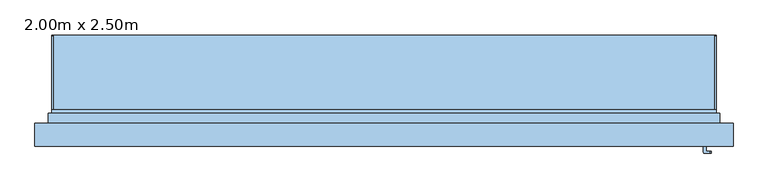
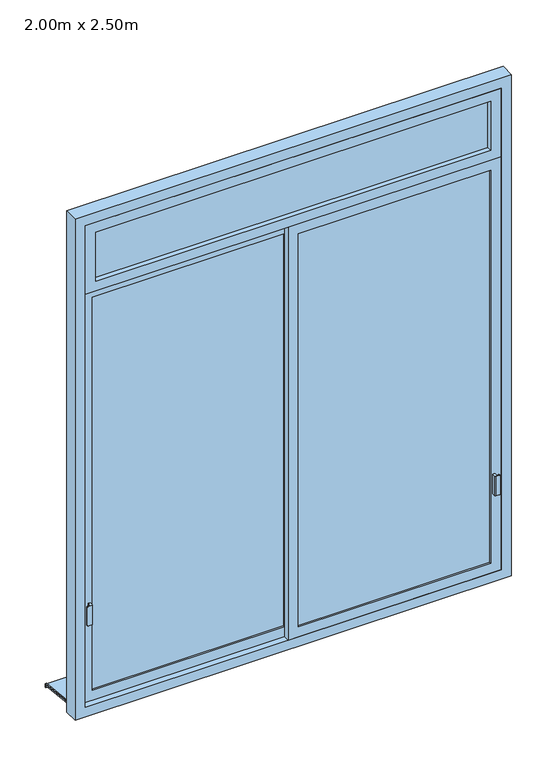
"""IFC4 building model written with IfcOpenShell, lengths in millimetres: window geometry, 2 Vantaux coul. - Imposte haute : 2.00m x 2.50m."""

from ifc_helpers import new_model, si_unit, point, frame, frame_2d, origin, place, context, project, spatial, polyline, circle_curve, trimmed, segment, composite_curve, outline, extrude, faceted_brep, source, transform, mapped, element, save
from ifc_brep_helpers import plane_surface, cylinder_surface, advanced_brep


def window_2_00m_x_2_50m_0c0f3709(model_context):
    return source(origin(), model_context, "Body", "SolidModel", [
        advanced_brep(
        [(-960.0, -147.5313182, 1250.0), (-962.4686818, -150.0, 1250.0), (-979.0477825, -150.0, 1250.0), (-979.0477825, -145.0, 1250.0), (-970.0, -145.0, 1250.0), (-970.0, -130.0, 1250.0), (-960.0, -130.0, 1250.0), (-960.0, -147.5313182, 1350.0), (-960.0, -130.0, 1350.0), (-970.0, -130.0, 1350.0), (-970.0, -145.0, 1350.0), (-979.0477825, -145.0, 1350.0), (-979.0477825, -150.0, 1350.0), (-962.4686818, -150.0, 1350.0), (-985.0, -145.0, 1255.9522175), (-985.0, -145.0, 1344.0477825), (-985.0, -150.0, 1255.9522175), (-985.0, -150.0, 1344.0477825)],
        [
            (0, 1),
            (1, 2),
            (2, 3),
            (3, 4),
            (4, 5),
            (5, 6),
            (6, 0),
            (7, 8),
            (8, 9),
            (9, 10),
            (10, 11),
            (11, 12),
            (12, 13),
            (13, 7),
            (6, 8),
            (7, 0),
            (5, 9),
            (4, 10),
            (3, 14, circle_curve(frame((-979.0477825, -145.0, 1255.9522175), z_axis=(0.0, 1.0, 0.0), x_axis=(-1.0, 0.0, 0.0)), 5.9522175)),
            (14, 15),
            (15, 11, circle_curve(frame((-979.0477825, -145.0, 1344.0477825), z_axis=(0.0, 1.0, 0.0), x_axis=(-1.0, 0.0, 0.0)), 5.9522175)),
            (14, 16),
            (16, 17),
            (17, 15),
            (12, 17, circle_curve(frame((-979.0477825, -150.0, 1344.0477825), z_axis=(0.0, -1.0, 0.0), x_axis=(-1.0, 0.0, 0.0)), 5.9522175)),
            (16, 2, circle_curve(frame((-979.0477825, -150.0, 1255.9522175), z_axis=(0.0, -1.0, 0.0), x_axis=(-1.0, 0.0, 0.0)), 5.9522175)),
            (1, 13),
        ],
        [
            plane_surface(frame((-960.0, -130.0, 1250.0), z_axis=(0.0, 0.0, -1.0), x_axis=(0.0, 1.0, 0.0))),
            plane_surface(frame((-960.0, -130.0, 1350.0), z_axis=(0.0, 0.0, 1.0), x_axis=(0.0, -1.0, 0.0))),
            plane_surface(frame((-960.0, -147.5313182, 1250.0), z_axis=(1.0, 0.0, 0.0), x_axis=(0.0, 0.0, 1.0))),
            plane_surface(frame((-960.0, -130.0, 1250.0), z_axis=(0.0, 1.0, 0.0), x_axis=(0.0, 0.0, 1.0))),
            plane_surface(frame((-970.0, -130.0, 1250.0), z_axis=(-1.0, 0.0, 0.0), x_axis=(0.0, 0.0, 1.0))),
            plane_surface(frame((-970.0, -145.0, 1250.0), z_axis=(0.0, 1.0, 0.0), x_axis=(0.0, 0.0, 1.0))),
            plane_surface(frame((-985.0, -145.0, 1250.0), z_axis=(-1.0, 0.0, 0.0), x_axis=(0.0, 0.0, 1.0))),
            plane_surface(frame((-985.0, -150.0, 1250.0), z_axis=(0.0, -1.0, 0.0), x_axis=(0.0, 0.0, 1.0))),
            plane_surface(frame((-962.4686818, -150.0, 1250.0), z_axis=(0.7071067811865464, -0.7071067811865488, 0.0), x_axis=(0.0, 0.0, 1.0))),
            cylinder_surface(frame((-979.0477825, -145.0, 1344.0477825), z_axis=(0.0, 1.0, 0.0), x_axis=(-1.0, 0.0, 0.0)), 5.9522175),
            cylinder_surface(frame((-979.0477825, -145.0, 1255.9522175), z_axis=(0.0, 1.0, 0.0), x_axis=(-1.0, 0.0, 0.0)), 5.9522175),
        ],
        [
            (0, [[1, 2, 3, 4, 5, 6, 7]]),
            (1, [[8, 9, 10, 11, 12, 13, 14]]),
            (2, [[15, -8, 16, -7]]),
            (3, [[17, -9, -15, -6]]),
            (4, [[18, -10, -17, -5]]),
            (5, [[-4, 19, 20, 21, -11, -18]]),
            (6, [[22, 23, 24, -20]]),
            (7, [[-13, 25, -23, 26, -2, 27]]),
            (8, [[-16, -14, -27, -1]]),
            (9, [[-21, -24, -25, -12]]),
            (10, [[-26, -22, -19, -3]]),
        ],
    ),
        advanced_brep(
        [(960.0, -177.5313182, 1250.0), (960.0, -160.0, 1250.0), (970.0, -160.0, 1250.0), (970.0, -175.0, 1250.0), (979.0477825, -175.0, 1250.0), (979.0477825, -180.0, 1250.0), (962.4686818, -180.0, 1250.0), (960.0, -177.5313182, 1350.0), (962.4686818, -180.0, 1350.0), (979.0477825, -180.0, 1350.0), (979.0477825, -175.0, 1350.0), (970.0, -175.0, 1350.0), (970.0, -160.0, 1350.0), (960.0, -160.0, 1350.0), (985.0, -175.0, 1344.0477825), (985.0, -175.0, 1255.9522175), (985.0, -180.0, 1344.0477825), (985.0, -180.0, 1255.9522175)],
        [
            (0, 1),
            (1, 2),
            (2, 3),
            (3, 4),
            (4, 5),
            (5, 6),
            (6, 0),
            (7, 8),
            (8, 9),
            (9, 10),
            (10, 11),
            (11, 12),
            (12, 13),
            (13, 7),
            (0, 7),
            (13, 1),
            (12, 2),
            (11, 3),
            (10, 14, circle_curve(frame((979.0477825, -175.0, 1344.0477825), z_axis=(0.0, 1.0, 0.0), x_axis=(1.0, 0.0, 0.0)), 5.9522175)),
            (14, 15),
            (15, 4, circle_curve(frame((979.0477825, -175.0, 1255.9522175), z_axis=(0.0, 1.0, 0.0), x_axis=(1.0, 0.0, 0.0)), 5.9522175)),
            (14, 16),
            (16, 17),
            (17, 15),
            (8, 6),
            (5, 17, circle_curve(frame((979.0477825, -180.0, 1255.9522175), z_axis=(0.0, -1.0, 0.0), x_axis=(1.0, 0.0, 0.0)), 5.9522175)),
            (16, 9, circle_curve(frame((979.0477825, -180.0, 1344.0477825), z_axis=(0.0, -1.0, 0.0), x_axis=(1.0, 0.0, 0.0)), 5.9522175)),
        ],
        [
            plane_surface(frame((960.0, -160.0, 1250.0), z_axis=(0.0, 0.0, -1.0), x_axis=(0.0, 1.0, 0.0))),
            plane_surface(frame((960.0, -160.0, 1350.0), z_axis=(0.0, 0.0, 1.0), x_axis=(0.0, -1.0, 0.0))),
            plane_surface(frame((960.0, -177.5313182, 1250.0), z_axis=(-1.0, 0.0, 0.0), x_axis=(0.0, 0.0, 1.0))),
            plane_surface(frame((960.0, -160.0, 1250.0), z_axis=(0.0, 1.0, 0.0), x_axis=(0.0, 0.0, 1.0))),
            plane_surface(frame((970.0, -160.0, 1250.0), z_axis=(1.0, 0.0, 0.0), x_axis=(0.0, 0.0, 1.0))),
            plane_surface(frame((970.0, -175.0, 1250.0), z_axis=(0.0, 1.0, 0.0), x_axis=(0.0, 0.0, 1.0))),
            plane_surface(frame((985.0, -175.0, 1250.0), z_axis=(1.0, 0.0, 0.0), x_axis=(0.0, 0.0, 1.0))),
            plane_surface(frame((985.0, -180.0, 1250.0), z_axis=(0.0, -1.0, 0.0), x_axis=(0.0, 0.0, 1.0))),
            plane_surface(frame((962.4686818, -180.0, 1250.0), z_axis=(-0.7071067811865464, -0.7071067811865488, 0.0), x_axis=(0.0, 0.0, 1.0))),
            cylinder_surface(frame((979.0477825, -175.0, 1344.0477825), z_axis=(0.0, 1.0, 0.0), x_axis=(1.0, 0.0, 0.0)), 5.9522175),
            cylinder_surface(frame((979.0477825, -175.0, 1255.9522175), z_axis=(0.0, 1.0, 0.0), x_axis=(1.0, 0.0, 0.0)), 5.9522175),
        ],
        [
            (0, [[1, 2, 3, 4, 5, 6, 7]]),
            (1, [[8, 9, 10, 11, 12, 13, 14]]),
            (2, [[-1, 15, -14, 16]]),
            (3, [[-2, -16, -13, 17]]),
            (4, [[-3, -17, -12, 18]]),
            (5, [[-18, -11, 19, 20, 21, -4]]),
            (6, [[-20, 22, 23, 24]]),
            (7, [[25, -6, 26, -23, 27, -9]]),
            (8, [[-7, -25, -8, -15]]),
            (9, [[-10, -27, -22, -19]]),
            (10, [[-5, -21, -24, -26]]),
        ],
    ),
        extrude(outline(polyline([(175.0, 763.4536318), (175.0, 747.8979153), (170.0, 748.4234365), (170.0, 758.7239412), (-80.0, 785.0), (-80.0, 800.0), (-75.0, 800.0), (-75.0, 789.7296906), (175.0, 763.4536318)])), frame((-1000.0, 0.0, 0.0), z_axis=(1.0, 0.0, 0.0), x_axis=(0.0, 1.0, 0.0)), (0.0, 0.0, 1.0), 2000.0),
        extrude(outline(composite_curve([segment(polyline([(175.0, 763.4536318), (-75.0, 789.7296906), (-75.0, 794.757232), (171.4181139, 768.8576446)]), True, "CONTINUOUS"), segment(trimmed(circle_curve(frame_2d((171.0, 764.879557)), 4.0), [point((171.4181139, 768.8576446))], [point((175.0, 764.879557))], False, "CARTESIAN"), True, "CONTINUOUS"), segment(polyline([(175.0, 764.879557), (175.0, 763.4536318)]), True, "CONTINUOUS")], self_intersect=False)), frame((-1000.0, 0.0, 0.0), z_axis=(1.0, 0.0, 0.0), x_axis=(0.0, 1.0, 0.0)), (0.0, 0.0, 1.0), 5.0),
        extrude(outline(composite_curve([segment(polyline([(175.0, 763.4536318), (-75.0, 789.7296906), (-75.0, 794.757232), (171.4181139, 768.8576446)]), True, "CONTINUOUS"), segment(trimmed(circle_curve(frame_2d((171.0, 764.879557)), 4.0), [point((171.4181139, 768.8576446))], [point((175.0, 764.879557))], False, "CARTESIAN"), True, "CONTINUOUS"), segment(polyline([(175.0, 764.879557), (175.0, 763.4536318)]), True, "CONTINUOUS")], self_intersect=False)), frame((995.0, 0.0, 0.0), z_axis=(1.0, 0.0, 0.0), x_axis=(0.0, 1.0, 0.0)), (0.0, 0.0, 1.0), 5.0),
        extrude(outline(polyline([(-950.0, -109.0), (-25.0, -109.0), (-25.0, -121.0), (-950.0, -121.0), (-950.0, -109.0)])), frame((0.0, 0.0, 900.0), z_axis=(0.0, 0.0, 1.0), x_axis=(1.0, 0.0, 0.0)), (0.0, 0.0, 1.0), 2000.0),
        extrude(outline(polyline([(850.0, 25.0), (2950.0, 25.0), (2950.0, -1000.0), (850.0, -1000.0), (850.0, 25.0)]), holes=[polyline([(900.0, -950.0), (2900.0, -950.0), (2900.0, -25.0), (900.0, -25.0), (900.0, -950.0)])]), frame((0.0, -130.0, 0.0), z_axis=(0.0, 1.0, 0.0), x_axis=(0.0, 0.0, 1.0)), (0.0, 0.0, 1.0), 30.0),
        extrude(outline(polyline([(25.0, -139.0), (950.0, -139.0), (950.0, -151.0), (25.0, -151.0), (25.0, -139.0)])), frame((0.0, 0.0, 900.0), z_axis=(0.0, 0.0, 1.0), x_axis=(1.0, 0.0, 0.0)), (0.0, 0.0, 1.0), 2000.0),
        extrude(outline(polyline([(850.0, 1000.0), (2950.0, 1000.0), (2950.0, -25.0), (850.0, -25.0), (850.0, 1000.0)]), holes=[polyline([(900.0, 25.0), (2900.0, 25.0), (2900.0, 950.0), (900.0, 950.0), (900.0, 25.0)])]), frame((0.0, -160.0, 0.0), z_axis=(0.0, 1.0, 0.0), x_axis=(0.0, 0.0, 1.0)), (0.0, 0.0, 1.0), 30.0),
        faceted_brep([(-1050.0, -160.0, 800.0), (-1050.0, -90.0, 800.0), (-1000.0, -90.0, 800.0), (-1000.0, -60.0, 800.0), (1000.0, -60.0, 800.0), (1000.0, -90.0, 800.0), (1050.0, -90.0, 800.0), (1050.0, -160.0, 800.0), (-1050.0, -160.0, 3350.0), (-1050.0, -90.0, 3350.0), (1050.0, -90.0, 3350.0), (1000.0, -90.0, 839.3761425), (-1000.0, -90.0, 839.3761425), (-985.0, -90.0, 3285.0), (-985.0, -90.0, 865.0), (985.0, -90.0, 865.0), (985.0, -90.0, 3285.0), (-1000.0, -50.0, 828.6581748), (-1000.0, -50.0, 795.0), (-1000.0, -60.0, 795.0), (1000.0, -60.0, 795.0), (1000.0, -50.0, 795.0), (1000.0, -50.0, 828.6581748), (1050.0, -160.0, 3350.0), (1000.0, -160.0, 3300.0), (1000.0, -160.0, 850.0), (-1000.0, -160.0, 850.0), (-1000.0, -160.0, 3300.0), (-985.0, -100.0, 3285.0), (-985.0, -100.0, 865.0), (985.0, -100.0, 865.0), (985.0, -100.0, 3285.0), (1000.0, -100.0, 3300.0), (-1000.0, -100.0, 3300.0), (-1000.0, -100.0, 850.0), (1000.0, -100.0, 850.0)], [[[0, 1, 2, 3, 4, 5, 6, 7]], [[1, 0, 8, 9]], [[1, 9, 10, 6, 5, 11, 12, 2], [13, 14, 15, 16]], [[12, 17, 18, 19, 3, 2]], [[3, 19, 20, 4]], [[4, 20, 21, 22, 11, 5]], [[6, 10, 23, 7]], [[0, 7, 23, 8], [24, 25, 26, 27]], [[13, 28, 29, 14]], [[29, 30, 15, 14]], [[31, 16, 15, 30]], [[17, 12, 11, 22]], [[32, 33, 34, 35], [28, 31, 30, 29]], [[34, 33, 27, 26]], [[26, 25, 35, 34]], [[24, 32, 35, 25]], [[18, 17, 22, 21]], [[19, 18, 21, 20]], [[13, 16, 31, 28]], [[33, 32, 24, 27]], [[10, 9, 8, 23]]]),
        extrude(outline(polyline([(800.0, -1010.0), (800.0, -1000.0), (3300.0, -1000.0), (3300.0, 1000.0), (800.0, 1000.0), (800.0, 1010.0), (3310.0, 1010.0), (3310.0, -1010.0), (800.0, -1010.0)])), frame((0.0, -90.0, 0.0), z_axis=(0.0, 1.0, 0.0), x_axis=(0.0, 0.0, 1.0)), (0.0, 0.0, 1.0), 30.0),
        extrude(outline(polyline([(2950.0, -1000.0), (2950.0, 1000.0), (3300.0, 1000.0), (3300.0, -1000.0), (2950.0, -1000.0)]), holes=[polyline([(3250.0, -950.0), (3250.0, 950.0), (3000.0, 950.0), (3000.0, -950.0), (3250.0, -950.0)])]), frame((0.0, -160.0, 0.0), z_axis=(0.0, 1.0, 0.0), x_axis=(0.0, 0.0, 1.0)), (0.0, 0.0, 1.0), 60.0),
        extrude(outline(polyline([(-950.0, -124.0), (950.0, -124.0), (950.0, -136.0), (-950.0, -136.0), (-950.0, -124.0)])), frame((0.0, 0.0, 3000.0), z_axis=(0.0, 0.0, 1.0), x_axis=(1.0, 0.0, 0.0)), (0.0, 0.0, 1.0), 250.0),
    ])


if __name__ == "__main__":
    model = new_model("IFC4")
    model_context = context("Model", 3, world=origin())
    ifc_project = project(units=[si_unit("LENGTHUNIT", "METRE", prefix="MILLI")], contexts=[model_context])
    site = spatial("IfcSite", under=ifc_project)
    building = spatial("IfcBuilding", under=site)
    placement = place(None, origin())
    window_2_00m_x_2_50m_shape = window_2_00m_x_2_50m_0c0f3709(model_context)
    element("IfcWindow", 1, ObjectType="2 Vantaux coul. - Imposte haute : 2.00m x 2.50m", at=placement, inside=building, context=model_context, shape_type="MappedRepresentation", body=[
        mapped(window_2_00m_x_2_50m_shape, transform((0.0, 0.0, 0.0), x_axis=(1.0, 0.0, 0.0), y_axis=(0.0, 1.0, 0.0), z_axis=(0.0, 0.0, 1.0))),
    ])
    save(model, "model.ifc")
